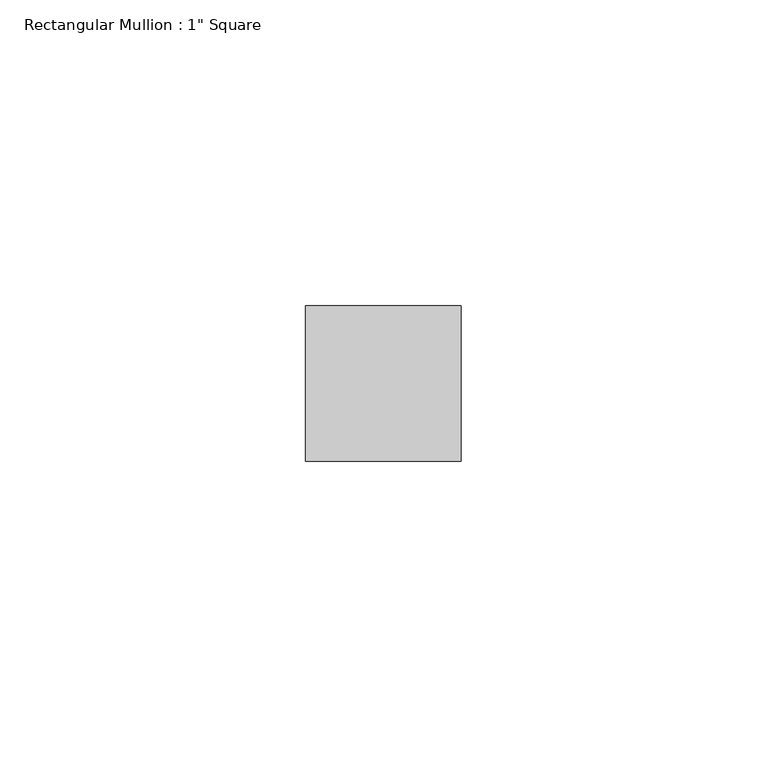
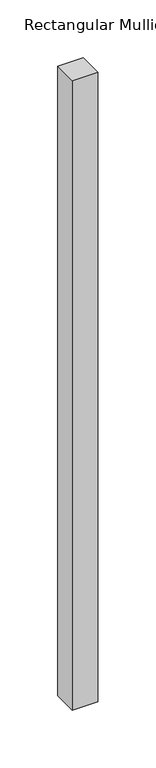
"""IFC4 building model written with IfcOpenShell, lengths in millimetres: member geometry."""

from ifc_helpers import new_model, si_unit, frame, origin, place, context, project, spatial, polyline, outline, extrude, source, transform, mapped, element, save


def member_b6a9e346(model_context):
    return source(origin(), model_context, "Body", "SweptSolid", [
        extrude(outline(polyline([(12.7, 12.7), (12.7, -12.7), (-12.7, -12.7), (-12.7, 12.7), (12.7, 12.7)])), frame((0.0, 0.0, -665.4460825), z_axis=(0.0, 0.0, 1.0), x_axis=(1.0, 0.0, 0.0)), (0.0, 0.0, 1.0), 665.4460825),
    ])


if __name__ == "__main__":
    model = new_model("IFC4")
    model_context = context("Model", 3, world=origin())
    ifc_project = project(units=[si_unit("LENGTHUNIT", "METRE", prefix="MILLI")], contexts=[model_context])
    site = spatial("IfcSite", under=ifc_project)
    building = spatial("IfcBuilding", under=site)
    placement = place(None, origin())
    member_shape = member_b6a9e346(model_context)
    element("IfcMember", 1, ObjectType="Rectangular Mullion : 1\" Square", at=placement, inside=building, context=model_context, shape_type="MappedRepresentation", body=[
        mapped(member_shape, transform((0.0, 0.0, 0.0), x_axis=(1.0, 0.0, 0.0), y_axis=(0.0, 1.0, 0.0), z_axis=(0.0, 0.0, 1.0))),
    ])
    save(model, "model.ifc")
